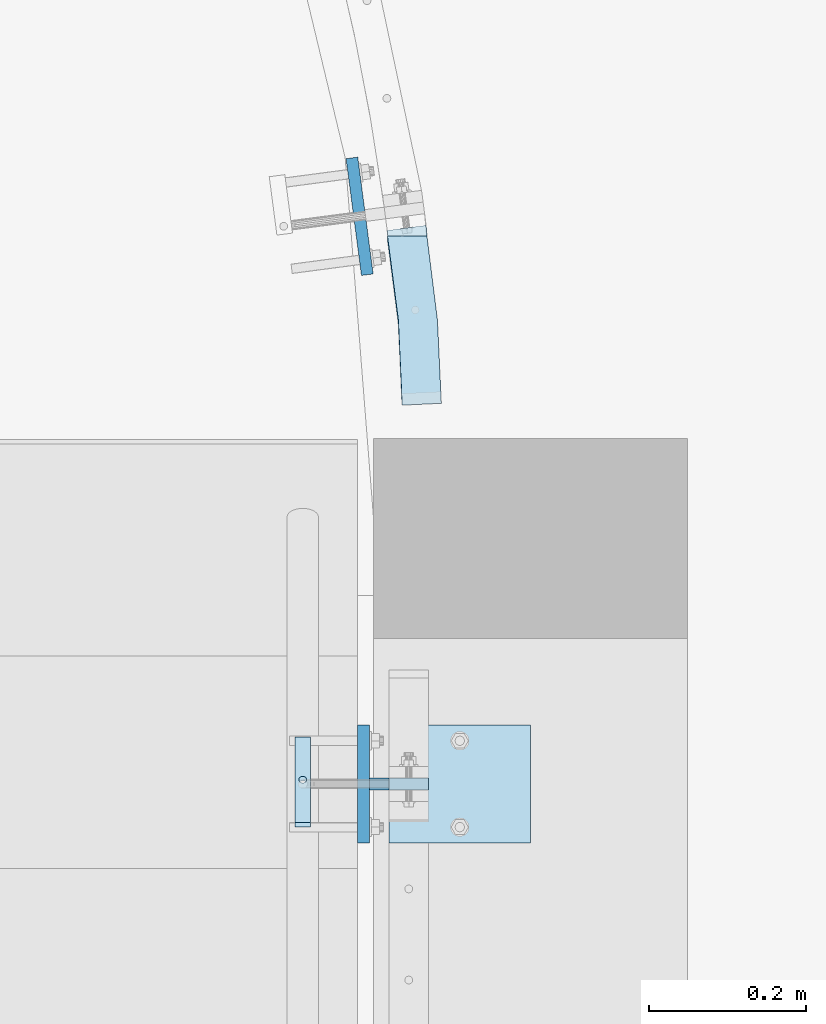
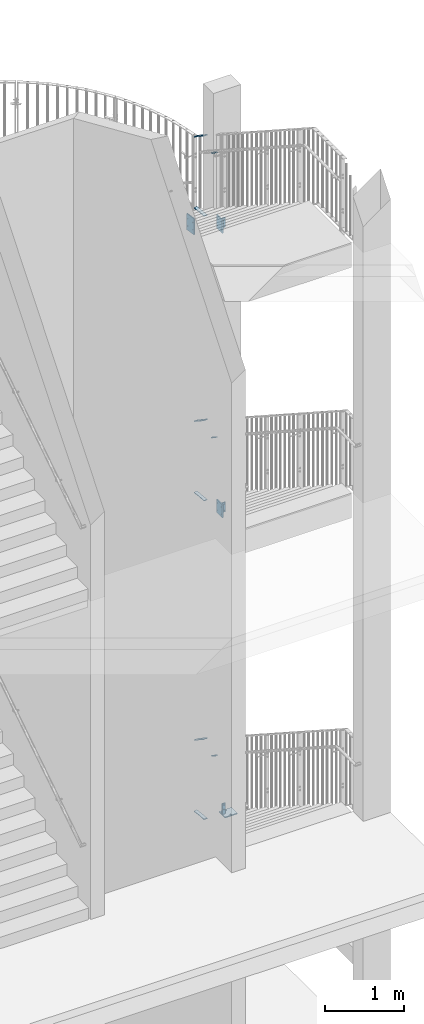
# One storey, part 116 of 296: 16 plates, 38 openings.
"""IFC2X3 building model written with IfcOpenShell, lengths in millimetres."""

from ifc_helpers import new_model, entity, si_unit, converted_unit, point, frame, frame_2d, origin, origin_with_axes, origin_2d_with_axis, place, context, project, spatial, polyline, circle_curve, line_curve, trimmed, segment, composite_curve, circle, outline, extrude, material, layer, layer_set, element, save


model = new_model("IFC2X3")

# Units and contexts
model_context = context("Model", 3, precision=1e-09, world=origin_with_axes())
ifc_project = project(units=[si_unit("LENGTHUNIT", "METRE", prefix="MILLI"), si_unit("AREAUNIT", "SQUARE_METRE"), si_unit("VOLUMEUNIT", "CUBIC_METRE"), converted_unit("PLANEANGLEUNIT", "DEGREE", entity("IfcPlaneAngleMeasure", 0.01745329), si_unit("PLANEANGLEUNIT", "RADIAN"), dimensions=[0, 0, 0, 0, 0, 0, 0])], contexts=[model_context])

# Site, building, storey
site_placement = place(None, origin_with_axes())
site = spatial("IfcSite", under=ifc_project, at=site_placement, Name="TZD-S?d | Treppenhausgel?nder", CompositionType="ELEMENT")
building_placement = place(site_placement, origin_with_axes())
building = spatial("IfcBuilding", under=site, at=building_placement, Name="Struktur 1", CompositionType="ELEMENT")
storey_placement = place(building_placement, origin_with_axes())
storey = spatial("IfcBuildingStorey", under=building, at=storey_placement, Name="Default Storey", CompositionType="ELEMENT", Elevation=0.0)

# Plate, openings
ifc_material = material(Name="S235JR")
ifc_layer_1 = layer(ifc_material, 15.0)
ifc_layer_set_1 = layer_set([ifc_layer_1], Name="S235JR")
plate_1_placement = place(None, frame((5824.976219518, 281.789112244, 11475.001), z_axis=(-0.991444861, -0.130526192, 0.0), x_axis=(0.130526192, -0.991444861, 0.0)))
plate_1 = element("IfcPlate", 1, at=plate_1_placement, inside=storey, material=ifc_layer_set_1, Name="Girder", ObjectType="Girder", context=model_context, shape_type="SweptSolid", body=[
    extrude(outline(polyline([(-75.0, -125.0), (75.0, -125.0), (75.0, 125.0), (-75.0, 125.0), (-75.0, -125.0)])), origin_with_axes(), (0.0, 0.0, -1.0), 15.0),
])
opening_1_placement = place(plate_1_placement, frame((47.999, 55.0, 0.5), z_axis=(0.0, 0.0, 1.0), x_axis=(1.0, 0.0, 0.0)))
element("IfcOpeningElement", 2, at=opening_1_placement, cuts=plate_1, ObjectType="Opening", context=model_context, shape_type="SweptSolid", body=[
    extrude(circle(Radius=7.001, at=frame_2d((7.001, 0.0), x_axis=(1.0, 0.0))), origin(), (0.0, 0.0, -1.0), 16.0),
])
opening_2_placement = place(plate_1_placement, frame((-62.001, 55.0, 0.5), z_axis=(0.0, 0.0, 1.0), x_axis=(1.0, 0.0, 0.0)))
element("IfcOpeningElement", 3, at=opening_2_placement, cuts=plate_1, ObjectType="Opening", context=model_context, shape_type="SweptSolid", body=[
    extrude(circle(Radius=7.001, at=frame_2d((7.001, 0.0), x_axis=(1.0, 0.0))), origin(), (0.0, 0.0, -1.0), 16.0),
])
opening_3_placement = place(plate_1_placement, frame((47.999, -55.0, 0.5), z_axis=(0.0, 0.0, 1.0), x_axis=(1.0, 0.0, 0.0)))
element("IfcOpeningElement", 4, at=opening_3_placement, cuts=plate_1, ObjectType="Opening", context=model_context, shape_type="SweptSolid", body=[
    extrude(circle(Radius=7.001, at=frame_2d((7.001, 0.0), x_axis=(1.0, 0.0))), origin(), (0.0, 0.0, -1.0), 16.0),
])
opening_4_placement = place(plate_1_placement, frame((-62.001, -55.0, 0.5), z_axis=(0.0, 0.0, 1.0), x_axis=(1.0, 0.0, 0.0)))
element("IfcOpeningElement", 5, at=opening_4_placement, cuts=plate_1, ObjectType="Opening", context=model_context, shape_type="SweptSolid", body=[
    extrude(circle(Radius=7.001, at=frame_2d((7.001, 0.0), x_axis=(1.0, 0.0))), origin(), (0.0, 0.0, -1.0), 16.0),
])

plate_2_placement = place(None, frame((5829.999, -440.0, 11914.999), z_axis=(-1.0, 0.0, 0.0), x_axis=(0.0, -1.0, 0.0)))
plate_2 = element("IfcPlate", 6, at=plate_2_placement, inside=storey, material=ifc_layer_set_1, Name="Girder", ObjectType="Girder", context=model_context, shape_type="SweptSolid", body=[
    extrude(outline(polyline([(-75.0, -100.0), (75.0, -100.0), (75.0, 100.0), (-75.0, 100.0), (-75.0, -100.0)])), origin_with_axes(), (0.0, 0.0, -1.0), 15.0),
])
opening_5_placement = place(plate_2_placement, frame((47.999, 55.0, 0.5), z_axis=(0.0, 0.0, 1.0), x_axis=(1.0, 0.0, 0.0)))
element("IfcOpeningElement", 7, at=opening_5_placement, cuts=plate_2, ObjectType="Opening", context=model_context, shape_type="SweptSolid", body=[
    extrude(circle(Radius=7.001, at=frame_2d((7.001, 0.0), x_axis=(1.0, 0.0))), origin(), (0.0, 0.0, -1.0), 16.0),
])
opening_6_placement = place(plate_2_placement, frame((-62.001, 55.0, 0.5), z_axis=(0.0, 0.0, 1.0), x_axis=(1.0, 0.0, 0.0)))
element("IfcOpeningElement", 8, at=opening_6_placement, cuts=plate_2, ObjectType="Opening", context=model_context, shape_type="SweptSolid", body=[
    extrude(circle(Radius=7.001, at=frame_2d((7.001, 0.0), x_axis=(1.0, 0.0))), origin(), (0.0, 0.0, -1.0), 16.0),
])
opening_7_placement = place(plate_2_placement, frame((47.999, -55.0, 0.5), z_axis=(0.0, 0.0, 1.0), x_axis=(1.0, 0.0, 0.0)))
element("IfcOpeningElement", 9, at=opening_7_placement, cuts=plate_2, ObjectType="Opening", context=model_context, shape_type="SweptSolid", body=[
    extrude(circle(Radius=7.001, at=frame_2d((7.001, 0.0), x_axis=(1.0, 0.0))), origin(), (0.0, 0.0, -1.0), 16.0),
])
opening_8_placement = place(plate_2_placement, frame((-62.001, -55.0, 0.5), z_axis=(0.0, 0.0, 1.0), x_axis=(1.0, 0.0, 0.0)))
element("IfcOpeningElement", 10, at=opening_8_placement, cuts=plate_2, ObjectType="Opening", context=model_context, shape_type="SweptSolid", body=[
    extrude(circle(Radius=7.001, at=frame_2d((7.001, 0.0), x_axis=(1.0, 0.0))), origin(), (0.0, 0.0, -1.0), 16.0),
])

plate_3_placement = place(None, frame((5882.499, -432.5, 11914.999), z_axis=(0.0, 1.0, 0.0), x_axis=(-1.0, 0.0, 0.0)))
plate_3 = element("IfcPlate", 11, at=plate_3_placement, inside=storey, material=ifc_layer_set_1, Name="Girder", ObjectType="Girder", context=model_context, shape_type="SweptSolid", body=[
    extrude(outline(polyline([(-37.5, -75.0), (37.5, -75.0), (37.5, 75.0), (-37.5, 75.0), (-37.5, -75.0)])), origin_with_axes(), (0.0, 0.0, -1.0), 15.0),
])
opening_9_placement = place(plate_3_placement, frame((-19.501, 50.0, 0.5), z_axis=(0.0, 0.0, 1.0), x_axis=(1.0, 0.0, 0.0)))
element("IfcOpeningElement", 12, at=opening_9_placement, cuts=plate_3, ObjectType="Opening", context=model_context, shape_type="SweptSolid", body=[
    extrude(circle(Radius=7.001, at=frame_2d((7.001, 0.0), x_axis=(1.0, 0.0))), origin(), (0.0, 0.0, -1.0), 16.0),
])
opening_10_placement = place(plate_3_placement, frame((-19.501, -50.0, 0.5), z_axis=(0.0, 0.0, 1.0), x_axis=(1.0, 0.0, 0.0)))
element("IfcOpeningElement", 13, at=opening_10_placement, cuts=plate_3, ObjectType="Opening", context=model_context, shape_type="SweptSolid", body=[
    extrude(circle(Radius=7.001, at=frame_2d((7.001, 0.0), x_axis=(1.0, 0.0))), origin(), (0.0, 0.0, -1.0), 16.0),
])

# Plate, opening
ifc_layer_2 = layer(ifc_material, 10.0)
ifc_layer_set_2 = layer_set([ifc_layer_2], Name="S235JR")
plate_4_placement = place(None, frame((5759.999, -440.0, 13032.651846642), z_axis=(0.0, -0.543478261, -0.839423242), x_axis=(0.0, -0.839423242, 0.543478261)))
plate_4 = element("IfcPlate", 14, at=plate_4_placement, inside=storey, material=ifc_layer_set_2, Name="Girder", ObjectType="Girder", context=model_context, shape_type="SweptSolid", body=[
    extrude(outline(polyline([(-65.0, -10.0), (65.0, -10.0), (65.0, 10.0), (-65.0, 10.0), (-65.0, -10.0)])), origin_with_axes(), (0.0, 0.0, -1.0), 10.0),
])
opening_11_placement = place(plate_4_placement, frame((-4.48e-07, 3.5e-07, 0.5), z_axis=(0.0, 0.0, -1.0), x_axis=(-1.0, 0.0, 0.0)))
element("IfcOpeningElement", 15, at=opening_11_placement, cuts=plate_4, ObjectType="Opening", context=model_context, shape_type="SweptSolid", body=[
    extrude(circle(Radius=5.001, at=origin_2d_with_axis()), origin(), (0.0, 0.0, 1.0), 11.0),
])

# Plate, openings
plate_5_placement = place(None, frame((5829.999, -440.0, 7539.999), z_axis=(-1.0, 0.0, 0.0), x_axis=(0.0, -1.0, 0.0)))
plate_5 = element("IfcPlate", 16, at=plate_5_placement, inside=storey, material=ifc_layer_set_1, Name="Girder", ObjectType="Girder", context=model_context, shape_type="SweptSolid", body=[
    extrude(outline(polyline([(-75.0, -100.0), (75.0, -100.0), (75.0, 100.0), (-75.0, 100.0), (-75.0, -100.0)])), origin_with_axes(), (0.0, 0.0, -1.0), 15.0),
])
opening_12_placement = place(plate_5_placement, frame((47.999, 55.0, 0.5), z_axis=(0.0, 0.0, 1.0), x_axis=(1.0, 0.0, 0.0)))
element("IfcOpeningElement", 17, at=opening_12_placement, cuts=plate_5, ObjectType="Opening", context=model_context, shape_type="SweptSolid", body=[
    extrude(circle(Radius=7.001, at=frame_2d((7.001, 0.0), x_axis=(1.0, 0.0))), origin(), (0.0, 0.0, -1.0), 16.0),
])
opening_13_placement = place(plate_5_placement, frame((-62.001, 55.0, 0.5), z_axis=(0.0, 0.0, 1.0), x_axis=(1.0, 0.0, 0.0)))
element("IfcOpeningElement", 18, at=opening_13_placement, cuts=plate_5, ObjectType="Opening", context=model_context, shape_type="SweptSolid", body=[
    extrude(circle(Radius=7.001, at=frame_2d((7.001, 0.0), x_axis=(1.0, 0.0))), origin(), (0.0, 0.0, -1.0), 16.0),
])
opening_14_placement = place(plate_5_placement, frame((47.999, -55.0, 0.5), z_axis=(0.0, 0.0, 1.0), x_axis=(1.0, 0.0, 0.0)))
element("IfcOpeningElement", 19, at=opening_14_placement, cuts=plate_5, ObjectType="Opening", context=model_context, shape_type="SweptSolid", body=[
    extrude(circle(Radius=7.001, at=frame_2d((7.001, 0.0), x_axis=(1.0, 0.0))), origin(), (0.0, 0.0, -1.0), 16.0),
])
opening_15_placement = place(plate_5_placement, frame((-62.001, -55.0, 0.5), z_axis=(0.0, 0.0, 1.0), x_axis=(1.0, 0.0, 0.0)))
element("IfcOpeningElement", 20, at=opening_15_placement, cuts=plate_5, ObjectType="Opening", context=model_context, shape_type="SweptSolid", body=[
    extrude(circle(Radius=7.001, at=frame_2d((7.001, 0.0), x_axis=(1.0, 0.0))), origin(), (0.0, 0.0, -1.0), 16.0),
])

plate_6_placement = place(None, frame((5882.499, -432.5, 7539.999), z_axis=(0.0, 1.0, 0.0), x_axis=(-1.0, 0.0, 0.0)))
plate_6 = element("IfcPlate", 21, at=plate_6_placement, inside=storey, material=ifc_layer_set_1, Name="Girder", ObjectType="Girder", context=model_context, shape_type="SweptSolid", body=[
    extrude(outline(polyline([(-37.5, -75.0), (37.5, -75.0), (37.5, 75.0), (-37.5, 75.0), (-37.5, -75.0)])), origin_with_axes(), (0.0, 0.0, -1.0), 15.0),
])
opening_16_placement = place(plate_6_placement, frame((-19.501, 50.0, 0.5), z_axis=(0.0, 0.0, 1.0), x_axis=(1.0, 0.0, 0.0)))
element("IfcOpeningElement", 22, at=opening_16_placement, cuts=plate_6, ObjectType="Opening", context=model_context, shape_type="SweptSolid", body=[
    extrude(circle(Radius=7.001, at=frame_2d((7.001, 0.0), x_axis=(1.0, 0.0))), origin(), (0.0, 0.0, -1.0), 16.0),
])
opening_17_placement = place(plate_6_placement, frame((-19.501, -50.0, 0.5), z_axis=(0.0, 0.0, 1.0), x_axis=(1.0, 0.0, 0.0)))
element("IfcOpeningElement", 23, at=opening_17_placement, cuts=plate_6, ObjectType="Opening", context=model_context, shape_type="SweptSolid", body=[
    extrude(circle(Radius=7.001, at=frame_2d((7.001, 0.0), x_axis=(1.0, 0.0))), origin(), (0.0, 0.0, -1.0), 16.0),
])

# Plate, opening
plate_7_placement = place(None, frame((5759.999, -440.0, 8654.282842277), z_axis=(0.0, -0.543608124, -0.839339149), x_axis=(0.0, -0.839339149, 0.543608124)))
plate_7 = element("IfcPlate", 24, at=plate_7_placement, inside=storey, material=ifc_layer_set_2, Name="Girder", ObjectType="Girder", context=model_context, shape_type="SweptSolid", body=[
    extrude(outline(polyline([(-65.0, -10.0), (65.0, -10.0), (65.0, 10.0), (-65.0, 10.0), (-65.0, -10.0)])), origin_with_axes(), (0.0, 0.0, -1.0), 10.0),
])
opening_18_placement = place(plate_7_placement, frame((4.21e-07, -4.78e-07, 0.5), z_axis=(0.0, 0.0, -1.0), x_axis=(-1.0, 0.0, 0.0)))
element("IfcOpeningElement", 25, at=opening_18_placement, cuts=plate_7, ObjectType="Opening", context=model_context, shape_type="SweptSolid", body=[
    extrude(circle(Radius=5.001, at=origin_2d_with_axis()), origin(), (0.0, 0.0, 1.0), 11.0),
])

plate_8_placement = place(None, frame((5759.999, -440.0, 3760.942564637), z_axis=(0.0, -0.542959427, -0.83975893), x_axis=(0.0, -0.83975893, 0.542959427)))
plate_8 = element("IfcPlate", 26, at=plate_8_placement, inside=storey, material=ifc_layer_set_2, Name="Girder", ObjectType="Girder", context=model_context, shape_type="SweptSolid", body=[
    extrude(outline(polyline([(-65.0, -10.0), (65.0, -10.0), (65.0, 10.0), (-65.0, 10.0), (-65.0, -10.0)])), origin_with_axes(), (0.0, 0.0, -1.0), 10.0),
])
opening_19_placement = place(plate_8_placement, frame((-5.4e-08, 1.29e-07, 0.5), z_axis=(0.0, 0.0, -1.0), x_axis=(-1.0, 0.0, 0.0)))
element("IfcOpeningElement", 27, at=opening_19_placement, cuts=plate_8, ObjectType="Opening", context=model_context, shape_type="SweptSolid", body=[
    extrude(circle(Radius=5.001, at=origin_2d_with_axis()), origin(), (0.0, 0.0, 1.0), 11.0),
])

# Plate, openings
plate_9_placement = place(None, frame((5894.999, -432.5, 2907.499), z_axis=(0.0, 1.0, 0.0), x_axis=(-1.0, 0.0, 0.0)))
plate_9 = element("IfcPlate", 28, at=plate_9_placement, inside=storey, material=ifc_layer_set_1, Name="Girder", ObjectType="Girder", context=model_context, shape_type="SweptSolid", body=[
    extrude(outline(polyline([(-25.0, -82.5), (25.0, -82.5), (25.0, 82.5), (-25.0, 82.5), (-25.0, -82.5)])), origin_with_axes(), (0.0, 0.0, -1.0), 15.0),
])
opening_20_placement = place(plate_9_placement, frame((0.0, 22.5, -15.5), z_axis=(0.0, 0.0, 1.0), x_axis=(1.0, 0.0, 0.0)))
element("IfcOpeningElement", 29, at=opening_20_placement, cuts=plate_9, ObjectType="Opening", context=model_context, shape_type="SweptSolid", body=[
    extrude(circle(Radius=7.001, at=frame_2d((0.0, 35.0), x_axis=(1.0, 0.0))), origin(), (0.0, 0.0, 1.0), 16.0),
])
opening_21_placement = place(plate_9_placement, frame((0.0, 22.5, -15.5), z_axis=(0.0, 0.0, 1.0), x_axis=(1.0, 0.0, 0.0)))
element("IfcOpeningElement", 30, at=opening_21_placement, cuts=plate_9, ObjectType="Opening", context=model_context, shape_type="SweptSolid", body=[
    extrude(circle(Radius=7.001, at=frame_2d((0.0, -35.0), x_axis=(1.0, 0.0))), origin(), (0.0, 0.0, 1.0), 16.0),
])

plate_10_placement = place(None, frame((5959.999, -440.0, 2809.999), z_axis=(0.0, 0.0, -1.0), x_axis=(0.0, -1.0, 0.0)))
plate_10 = element("IfcPlate", 31, at=plate_10_placement, inside=storey, material=ifc_layer_set_1, Name="Girder", ObjectType="Girder", context=model_context, shape_type="SweptSolid", body=[
    extrude(outline(polyline([(-75.0, -90.0), (75.0, -90.0), (75.0, 90.0), (-75.0, 90.0), (-75.0, -90.0)])), origin_with_axes(), (0.0, 0.0, -1.0), 15.0),
])
opening_22_placement = place(plate_10_placement, frame((47.999, 0.0, 0.5), z_axis=(0.0, 0.0, 1.0), x_axis=(1.0, 0.0, 0.0)))
element("IfcOpeningElement", 32, at=opening_22_placement, cuts=plate_10, ObjectType="Opening", context=model_context, shape_type="SweptSolid", body=[
    extrude(circle(Radius=7.001, at=frame_2d((7.001, 0.0), x_axis=(1.0, 0.0))), origin(), (0.0, 0.0, -1.0), 16.0),
])
opening_23_placement = place(plate_10_placement, frame((-62.001, 0.0, 0.5), z_axis=(0.0, 0.0, 1.0), x_axis=(1.0, 0.0, 0.0)))
element("IfcOpeningElement", 33, at=opening_23_placement, cuts=plate_10, ObjectType="Opening", context=model_context, shape_type="SweptSolid", body=[
    extrude(circle(Radius=7.001, at=frame_2d((7.001, 0.0), x_axis=(1.0, 0.0))), origin(), (0.0, 0.0, -1.0), 16.0),
])

plate_11_placement = place(None, frame((5867.486211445, 264.69150724, 11715.0), z_axis=(0.0, 0.0, -1.0), x_axis=(0.991444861, 0.130526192, 0.0)))
plate_11 = element("IfcPlate", 34, at=plate_11_placement, inside=storey, material=ifc_layer_set_2, Name="-", ObjectType="-", context=model_context, shape_type="SweptSolid", body=[
    extrude(outline(polyline([(0.0, 0.0), (50.001415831, 0.0), (49.15230877, 113.777177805), (39.730362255, 227.166745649), (-10.09791287, 223.026335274), (-0.847689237, 111.70338746), (0.0, 0.0)])), origin_with_axes(), (0.0, 0.0, -1.0), 10.0),
])
opening_24_placement = place(plate_11_placement, frame((49.15230877, 113.777177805, 0.01), z_axis=(0.0, 0.0, 1.0), x_axis=(-0.082808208, 0.996565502, 0.0)))
element("IfcOpeningElement", 35, at=opening_24_placement, cuts=plate_11, ObjectType="Opening", context=model_context, shape_type="SweptSolid", body=[
    extrude(outline(composite_curve([segment(trimmed(line_curve((0.0, 0.0), (1.0, 0.0), 113.780346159), [point((0.0, 0.0))], [point((113.780346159, 0.0))], True, "CARTESIAN"), True, "CONTINUOUS"), segment(trimmed(circle_curve(frame_2d((113.780346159, 3014.999999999), x_axis=(-1.0, 0.0)), 3014.999999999), [point((113.780346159, 0.0))], [point((-113.456723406, 8.575493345))], False, "CARTESIAN"), True, "CONTINUOUS"), segment(trimmed(line_curve((-113.456723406, 8.575493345), (0.997155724, -0.075368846), 113.780346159), [point((-113.456723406, 8.575493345))], [point((0.0, 0.0))], True, "CARTESIAN"), True, "CONTINUOUS")], self_intersect=False)), origin(), (0.0, 0.0, -1.0), 10.02),
])
opening_25_placement = place(plate_11_placement, frame((-0.847689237, 111.70338746, 0.0), z_axis=(0.0, 0.0, -1.0), x_axis=(0.007588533, -0.999971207, 0.0)))
element("IfcOpeningElement", 36, at=opening_25_placement, cuts=plate_11, ObjectType="Opening", context=model_context, shape_type="SweptSolid", body=[
    extrude(outline(composite_curve([segment(trimmed(line_curve((0.0, 0.0), (1.0, 0.0), 111.706603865), [point((0.0, 0.0))], [point((111.706603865, 0.0))], True, "CARTESIAN"), True, "CONTINUOUS"), segment(trimmed(circle_curve(frame_2d((111.706603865, 2965.0), x_axis=(-1.0, 0.0)), 2965.0), [point((111.706603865, 0.0))], [point((-111.389938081, 8.405179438))], False, "CARTESIAN"), True, "CONTINUOUS"), segment(trimmed(line_curve((-111.389938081, 8.405179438), (0.997165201, -0.075243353), 111.706603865), [point((-111.389938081, 8.405179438))], [point((0.0, 0.0))], True, "CARTESIAN"), True, "CONTINUOUS")], self_intersect=False)), origin(), (0.0, 0.0, -1.0), 10.0),
])

plate_12_placement = place(None, frame((5918.157992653, 252.397855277, 12816.606608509), z_axis=(0.0, 0.543608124, 0.839339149), x_axis=(-1.0, 0.0, 0.0)))
plate_12 = element("IfcPlate", 37, at=plate_12_placement, inside=storey, material=ifc_layer_set_2, Name="Girder", ObjectType="Girder", context=model_context, shape_type="SweptSolid", body=[
    extrude(outline(polyline([(0.0, 0.0), (50.261394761, 0.0), (36.410468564, 127.377472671), (31.316632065, 262.186728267), (-18.634184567, 262.186728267), (-13.374301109, 127.405909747), (0.0, 0.0)])), origin_with_axes(), (0.0, 0.0, 1.0), 10.0),
])
opening_26_placement = place(plate_12_placement, origin_with_axes())
element("IfcOpeningElement", 38, at=opening_26_placement, cuts=plate_12, ObjectType="Opening", context=model_context, shape_type="SweptSolid", body=[
    extrude(outline(composite_curve([segment(trimmed(line_curve((36.410468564, 127.377472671), (-0.037758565, 0.999286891), 128.128329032), [point((36.410468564, 127.377472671))], [point((31.572526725, 255.414432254))], True, "CARTESIAN"), True, "CONTINUOUS"), segment(trimmed(circle_curve(frame_2d((3659.947550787, 392.514433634), x_axis=(1.0, 0.0)), 3630.964296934), [point((31.572526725, 255.414432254))], [point((50.261394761, 0.0))], True, "CARTESIAN"), True, "CONTINUOUS"), segment(trimmed(line_curve((50.261394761, 0.0), (-0.108101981, 0.99413981), 128.128329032), [point((50.261394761, 0.0))], [point((36.410468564, 127.377472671))], True, "CARTESIAN"), True, "CONTINUOUS")], self_intersect=False)), origin(), (0.0, 0.0, 1.0), 10.0),
])
opening_27_placement = place(plate_12_placement, frame((0.0, 0.0, -0.01), z_axis=(0.0, 0.0, 1.0), x_axis=(1.0, 0.0, 0.0)))
element("IfcOpeningElement", 39, at=opening_27_placement, cuts=plate_12, ObjectType="Opening", context=model_context, shape_type="SweptSolid", body=[
    extrude(outline(composite_curve([segment(trimmed(line_curve((-13.374301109, 127.405909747), (0.104400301, -0.994535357), 128.105963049), [point((-13.374301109, 127.405909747))], [point((0.0, 0.0))], True, "CARTESIAN"), True, "CONTINUOUS"), segment(trimmed(circle_curve(frame_2d((3883.809033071, 407.698760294), x_axis=(-1.0, 0.0)), 3905.149278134), [point((0.0, 0.0))], [point((-18.369892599, 255.414432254))], False, "CARTESIAN"), True, "CONTINUOUS"), segment(trimmed(line_curve((-18.369892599, 255.414432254), (0.038995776, -0.999239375), 128.105963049), [point((-18.369892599, 255.414432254))], [point((-13.374301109, 127.405909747))], True, "CARTESIAN"), True, "CONTINUOUS")], self_intersect=False)), origin(), (0.0, 0.0, 1.0), 10.02),
])
opening_28_placement = place(plate_12_placement, frame((50.375839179, 2.030969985, 3.684617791), z_axis=(-0.998848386, -0.040269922, 0.0260813), x_axis=(0.047978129, -0.838372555, 0.542982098)))
element("IfcOpeningElement", 40, at=opening_28_placement, cuts=plate_12, ObjectType="Opening", context=model_context, shape_type="SweptSolid", body=[
    extrude(outline(polyline([(-238.936367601, 109.893962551), (-211.099820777, 109.893962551), (-211.099820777, 154.899084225), (-238.936367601, 154.899084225), (-238.936367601, 109.893962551)])), origin(), (0.0, 0.0, 1.0), 58.892599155),
])

plate_13_placement = place(None, frame((5867.486211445, 264.69150724, 2440.0), z_axis=(0.0, 0.0, -1.0), x_axis=(0.991444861, 0.130526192, 0.0)))
plate_13 = element("IfcPlate", 41, at=plate_13_placement, inside=storey, material=ifc_layer_set_2, Name="-", ObjectType="-", context=model_context, shape_type="SweptSolid", body=[
    extrude(outline(polyline([(0.0, 0.0), (50.001415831, 0.0), (49.15230877, 113.777177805), (39.730362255, 227.166745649), (-10.09791287, 223.026335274), (-0.847689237, 111.70338746), (0.0, 0.0)])), origin_with_axes(), (0.0, 0.0, -1.0), 10.0),
])
opening_29_placement = place(plate_13_placement, frame((49.15230877, 113.777177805, 0.01), z_axis=(0.0, 0.0, 1.0), x_axis=(-0.082808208, 0.996565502, 0.0)))
element("IfcOpeningElement", 42, at=opening_29_placement, cuts=plate_13, ObjectType="Opening", context=model_context, shape_type="SweptSolid", body=[
    extrude(outline(composite_curve([segment(trimmed(line_curve((0.0, 0.0), (1.0, 0.0), 113.780346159), [point((0.0, 0.0))], [point((113.780346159, 0.0))], True, "CARTESIAN"), True, "CONTINUOUS"), segment(trimmed(circle_curve(frame_2d((113.780346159, 3014.999999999), x_axis=(-1.0, 0.0)), 3014.999999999), [point((113.780346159, 0.0))], [point((-113.456723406, 8.575493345))], False, "CARTESIAN"), True, "CONTINUOUS"), segment(trimmed(line_curve((-113.456723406, 8.575493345), (0.997155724, -0.075368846), 113.780346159), [point((-113.456723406, 8.575493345))], [point((0.0, 0.0))], True, "CARTESIAN"), True, "CONTINUOUS")], self_intersect=False)), origin(), (0.0, 0.0, -1.0), 10.02),
])
opening_30_placement = place(plate_13_placement, frame((-0.847689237, 111.70338746, 0.0), z_axis=(0.0, 0.0, -1.0), x_axis=(0.007588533, -0.999971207, 0.0)))
element("IfcOpeningElement", 43, at=opening_30_placement, cuts=plate_13, ObjectType="Opening", context=model_context, shape_type="SweptSolid", body=[
    extrude(outline(composite_curve([segment(trimmed(line_curve((0.0, 0.0), (1.0, 0.0), 111.706603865), [point((0.0, 0.0))], [point((111.706603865, 0.0))], True, "CARTESIAN"), True, "CONTINUOUS"), segment(trimmed(circle_curve(frame_2d((111.706603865, 2965.0), x_axis=(-1.0, 0.0)), 2965.0), [point((111.706603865, 0.0))], [point((-111.389938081, 8.405179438))], False, "CARTESIAN"), True, "CONTINUOUS"), segment(trimmed(line_curve((-111.389938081, 8.405179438), (0.997165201, -0.075243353), 111.706603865), [point((-111.389938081, 8.405179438))], [point((0.0, 0.0))], True, "CARTESIAN"), True, "CONTINUOUS")], self_intersect=False)), origin(), (0.0, 0.0, -1.0), 10.0),
])

plate_14_placement = place(None, frame((5918.157992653, 252.397855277, 3541.606608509), z_axis=(0.0, 0.543608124, 0.839339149), x_axis=(-1.0, 0.0, 0.0)))
plate_14 = element("IfcPlate", 44, at=plate_14_placement, inside=storey, material=ifc_layer_set_2, Name="Girder", ObjectType="Girder", context=model_context, shape_type="SweptSolid", body=[
    extrude(outline(polyline([(0.0, 0.0), (50.261394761, 0.0), (36.410468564, 127.377472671), (31.316632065, 262.186728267), (-18.634184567, 262.186728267), (-13.374301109, 127.405909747), (0.0, 0.0)])), origin_with_axes(), (0.0, 0.0, 1.0), 10.0),
])
opening_31_placement = place(plate_14_placement, origin_with_axes())
element("IfcOpeningElement", 45, at=opening_31_placement, cuts=plate_14, ObjectType="Opening", context=model_context, shape_type="SweptSolid", body=[
    extrude(outline(composite_curve([segment(trimmed(line_curve((36.410468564, 127.377472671), (-0.037758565, 0.999286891), 128.128329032), [point((36.410468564, 127.377472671))], [point((31.572526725, 255.414432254))], True, "CARTESIAN"), True, "CONTINUOUS"), segment(trimmed(circle_curve(frame_2d((3659.947550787, 392.514433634), x_axis=(1.0, 0.0)), 3630.964296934), [point((31.572526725, 255.414432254))], [point((50.261394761, 0.0))], True, "CARTESIAN"), True, "CONTINUOUS"), segment(trimmed(line_curve((50.261394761, 0.0), (-0.108101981, 0.99413981), 128.128329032), [point((50.261394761, 0.0))], [point((36.410468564, 127.377472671))], True, "CARTESIAN"), True, "CONTINUOUS")], self_intersect=False)), origin(), (0.0, 0.0, 1.0), 10.0),
])
opening_32_placement = place(plate_14_placement, frame((0.0, 0.0, -0.01), z_axis=(0.0, 0.0, 1.0), x_axis=(1.0, 0.0, 0.0)))
element("IfcOpeningElement", 46, at=opening_32_placement, cuts=plate_14, ObjectType="Opening", context=model_context, shape_type="SweptSolid", body=[
    extrude(outline(composite_curve([segment(trimmed(line_curve((-13.374301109, 127.405909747), (0.104400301, -0.994535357), 128.105963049), [point((-13.374301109, 127.405909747))], [point((0.0, 0.0))], True, "CARTESIAN"), True, "CONTINUOUS"), segment(trimmed(circle_curve(frame_2d((3883.809033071, 407.698760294), x_axis=(-1.0, 0.0)), 3905.149278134), [point((0.0, 0.0))], [point((-18.369892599, 255.414432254))], False, "CARTESIAN"), True, "CONTINUOUS"), segment(trimmed(line_curve((-18.369892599, 255.414432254), (0.038995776, -0.999239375), 128.105963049), [point((-18.369892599, 255.414432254))], [point((-13.374301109, 127.405909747))], True, "CARTESIAN"), True, "CONTINUOUS")], self_intersect=False)), origin(), (0.0, 0.0, 1.0), 10.02),
])
opening_33_placement = place(plate_14_placement, frame((50.375839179, 2.030969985, 3.684617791), z_axis=(-0.998848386, -0.040269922, 0.0260813), x_axis=(0.047978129, -0.838372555, 0.542982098)))
element("IfcOpeningElement", 47, at=opening_33_placement, cuts=plate_14, ObjectType="Opening", context=model_context, shape_type="SweptSolid", body=[
    extrude(outline(polyline([(-238.936367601, 109.893962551), (-211.099820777, 109.893962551), (-211.099820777, 154.899084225), (-238.936367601, 154.899084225), (-238.936367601, 109.893962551)])), origin(), (0.0, 0.0, 1.0), 58.892599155),
])

plate_15_placement = place(None, frame((5867.486211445, 264.69150724, 7340.0), z_axis=(0.0, 0.0, -1.0), x_axis=(0.991444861, 0.130526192, 0.0)))
plate_15 = element("IfcPlate", 48, at=plate_15_placement, inside=storey, material=ifc_layer_set_2, Name="-", ObjectType="-", context=model_context, shape_type="SweptSolid", body=[
    extrude(outline(polyline([(0.0, 0.0), (50.001415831, 0.0), (49.15230877, 113.777177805), (39.730362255, 227.166745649), (-10.09791287, 223.026335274), (-0.847689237, 111.70338746), (0.0, 0.0)])), origin_with_axes(), (0.0, 0.0, -1.0), 10.0),
])
opening_34_placement = place(plate_15_placement, frame((49.15230877, 113.777177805, 0.01), z_axis=(0.0, 0.0, 1.0), x_axis=(-0.082808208, 0.996565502, 0.0)))
element("IfcOpeningElement", 49, at=opening_34_placement, cuts=plate_15, ObjectType="Opening", context=model_context, shape_type="SweptSolid", body=[
    extrude(outline(composite_curve([segment(trimmed(line_curve((0.0, 0.0), (1.0, 0.0), 113.780346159), [point((0.0, 0.0))], [point((113.780346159, 0.0))], True, "CARTESIAN"), True, "CONTINUOUS"), segment(trimmed(circle_curve(frame_2d((113.780346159, 3014.999999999), x_axis=(-1.0, 0.0)), 3014.999999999), [point((113.780346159, 0.0))], [point((-113.456723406, 8.575493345))], False, "CARTESIAN"), True, "CONTINUOUS"), segment(trimmed(line_curve((-113.456723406, 8.575493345), (0.997155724, -0.075368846), 113.780346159), [point((-113.456723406, 8.575493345))], [point((0.0, 0.0))], True, "CARTESIAN"), True, "CONTINUOUS")], self_intersect=False)), origin(), (0.0, 0.0, -1.0), 10.02),
])
opening_35_placement = place(plate_15_placement, frame((-0.847689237, 111.70338746, 0.0), z_axis=(0.0, 0.0, -1.0), x_axis=(0.007588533, -0.999971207, 0.0)))
element("IfcOpeningElement", 50, at=opening_35_placement, cuts=plate_15, ObjectType="Opening", context=model_context, shape_type="SweptSolid", body=[
    extrude(outline(composite_curve([segment(trimmed(line_curve((0.0, 0.0), (1.0, 0.0), 111.706603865), [point((0.0, 0.0))], [point((111.706603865, 0.0))], True, "CARTESIAN"), True, "CONTINUOUS"), segment(trimmed(circle_curve(frame_2d((111.706603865, 2965.0), x_axis=(-1.0, 0.0)), 2965.0), [point((111.706603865, 0.0))], [point((-111.389938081, 8.405179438))], False, "CARTESIAN"), True, "CONTINUOUS"), segment(trimmed(line_curve((-111.389938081, 8.405179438), (0.997165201, -0.075243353), 111.706603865), [point((-111.389938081, 8.405179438))], [point((0.0, 0.0))], True, "CARTESIAN"), True, "CONTINUOUS")], self_intersect=False)), origin(), (0.0, 0.0, -1.0), 10.0),
])

plate_16_placement = place(None, frame((5918.157992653, 252.397855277, 8441.606608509), z_axis=(0.0, 0.543608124, 0.839339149), x_axis=(-1.0, 0.0, 0.0)))
plate_16 = element("IfcPlate", 51, at=plate_16_placement, inside=storey, material=ifc_layer_set_2, Name="Girder", ObjectType="Girder", context=model_context, shape_type="SweptSolid", body=[
    extrude(outline(polyline([(0.0, 0.0), (50.261394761, 0.0), (36.410468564, 127.377472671), (31.316632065, 262.186728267), (-18.634184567, 262.186728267), (-13.374301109, 127.405909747), (0.0, 0.0)])), origin_with_axes(), (0.0, 0.0, 1.0), 10.0),
])
opening_36_placement = place(plate_16_placement, origin_with_axes())
element("IfcOpeningElement", 52, at=opening_36_placement, cuts=plate_16, ObjectType="Opening", context=model_context, shape_type="SweptSolid", body=[
    extrude(outline(composite_curve([segment(trimmed(line_curve((36.410468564, 127.377472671), (-0.037758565, 0.999286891), 128.128329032), [point((36.410468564, 127.377472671))], [point((31.572526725, 255.414432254))], True, "CARTESIAN"), True, "CONTINUOUS"), segment(trimmed(circle_curve(frame_2d((3659.947550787, 392.514433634), x_axis=(1.0, 0.0)), 3630.964296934), [point((31.572526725, 255.414432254))], [point((50.261394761, 0.0))], True, "CARTESIAN"), True, "CONTINUOUS"), segment(trimmed(line_curve((50.261394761, 0.0), (-0.108101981, 0.99413981), 128.128329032), [point((50.261394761, 0.0))], [point((36.410468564, 127.377472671))], True, "CARTESIAN"), True, "CONTINUOUS")], self_intersect=False)), origin(), (0.0, 0.0, 1.0), 10.0),
])
opening_37_placement = place(plate_16_placement, frame((0.0, 0.0, -0.01), z_axis=(0.0, 0.0, 1.0), x_axis=(1.0, 0.0, 0.0)))
element("IfcOpeningElement", 53, at=opening_37_placement, cuts=plate_16, ObjectType="Opening", context=model_context, shape_type="SweptSolid", body=[
    extrude(outline(composite_curve([segment(trimmed(line_curve((-13.374301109, 127.405909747), (0.104400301, -0.994535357), 128.105963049), [point((-13.374301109, 127.405909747))], [point((0.0, 0.0))], True, "CARTESIAN"), True, "CONTINUOUS"), segment(trimmed(circle_curve(frame_2d((3883.809033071, 407.698760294), x_axis=(-1.0, 0.0)), 3905.149278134), [point((0.0, 0.0))], [point((-18.369892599, 255.414432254))], False, "CARTESIAN"), True, "CONTINUOUS"), segment(trimmed(line_curve((-18.369892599, 255.414432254), (0.038995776, -0.999239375), 128.105963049), [point((-18.369892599, 255.414432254))], [point((-13.374301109, 127.405909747))], True, "CARTESIAN"), True, "CONTINUOUS")], self_intersect=False)), origin(), (0.0, 0.0, 1.0), 10.02),
])
opening_38_placement = place(plate_16_placement, frame((50.375839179, 2.030969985, 3.684617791), z_axis=(-0.998848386, -0.040269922, 0.0260813), x_axis=(0.047978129, -0.838372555, 0.542982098)))
element("IfcOpeningElement", 54, at=opening_38_placement, cuts=plate_16, ObjectType="Opening", context=model_context, shape_type="SweptSolid", body=[
    extrude(outline(polyline([(-238.936367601, 109.893962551), (-211.099820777, 109.893962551), (-211.099820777, 154.899084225), (-238.936367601, 154.899084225), (-238.936367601, 109.893962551)])), origin(), (0.0, 0.0, 1.0), 58.892599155),
])

save(model, "model.ifc")
